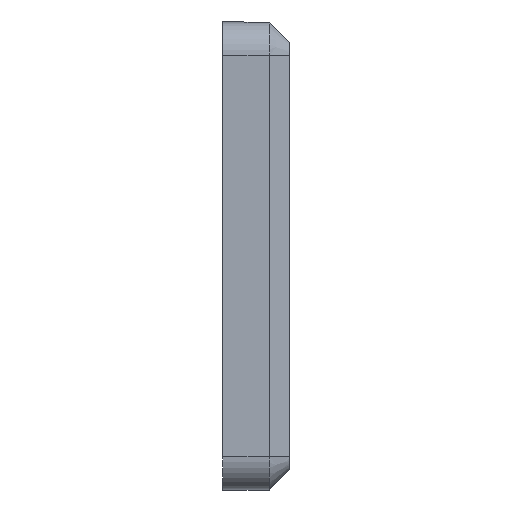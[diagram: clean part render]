
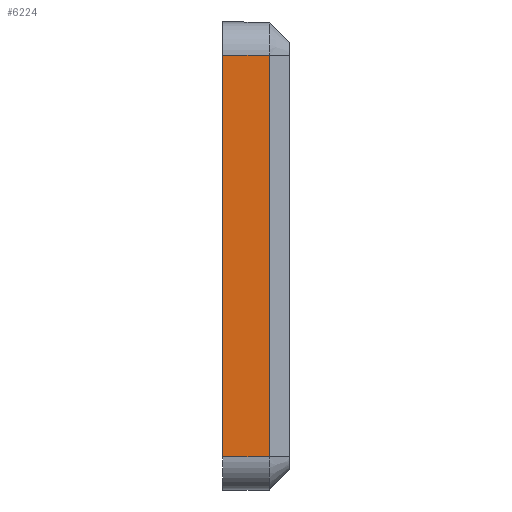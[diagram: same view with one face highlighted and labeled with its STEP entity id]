
A CAD part, left-side view. The second image highlights one B-rep face of the part: STEP entity #6224.
In plain terms, the highlighted planar face has unit normal (-1, 0, 0).
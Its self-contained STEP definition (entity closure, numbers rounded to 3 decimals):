
#274=FACE_OUTER_BOUND('',#644,.T.);
#644=EDGE_LOOP('',(#4397,#4398,#4399,#4400));
#988=LINE('',#8224,#1765);
#1000=LINE('',#8257,#1777);
#1006=LINE('',#8275,#1783);
#1203=LINE('',#8920,#1980);
#1765=VECTOR('',#6863,10.);
#1777=VECTOR('',#6893,10.);
#1783=VECTOR('',#6915,10.);
#1980=VECTOR('',#7122,10.);
#2551=VERTEX_POINT('',#8209);
#2558=VERTEX_POINT('',#8222);
#2567=VERTEX_POINT('',#8247);
#2569=VERTEX_POINT('',#8253);
#3172=EDGE_CURVE('',#2558,#2551,#988,.T.);
#3188=EDGE_CURVE('',#2567,#2569,#1000,.T.);
#3198=EDGE_CURVE('',#2567,#2551,#1006,.T.);
#3445=EDGE_CURVE('',#2569,#2558,#1203,.T.);
#4397=ORIENTED_EDGE('',*,*,#3188,.F.);
#4398=ORIENTED_EDGE('',*,*,#3198,.T.);
#4399=ORIENTED_EDGE('',*,*,#3172,.F.);
#4400=ORIENTED_EDGE('',*,*,#3445,.F.);
#5948=PLANE('',#6584);
#6224=ADVANCED_FACE('',(#274),#5948,.F.);
#6584=AXIS2_PLACEMENT_3D('',#8919,#7120,#7121);
#6863=DIRECTION('',(0.,0.,1.));
#6893=DIRECTION('',(0.,0.,-1.));
#6915=DIRECTION('',(0.,1.,0.));
#7120=DIRECTION('center_axis',(1.,0.,0.));
#7121=DIRECTION('ref_axis',(0.,0.,-1.));
#7122=DIRECTION('',(0.,1.,0.));
#8209=CARTESIAN_POINT('',(8.5,0.7,-0.5));
#8222=CARTESIAN_POINT('',(8.5,0.7,-6.5));
#8224=CARTESIAN_POINT('',(8.5,0.7,-6.5));
#8247=CARTESIAN_POINT('',(8.5,0.,-0.5));
#8253=CARTESIAN_POINT('',(8.5,0.,-6.5));
#8257=CARTESIAN_POINT('',(8.5,0.,0.));
#8275=CARTESIAN_POINT('',(8.5,-4.3,-0.5));
#8919=CARTESIAN_POINT('Origin',(8.5,-4.3,-0.5));
#8920=CARTESIAN_POINT('',(8.5,-4.3,-6.5));
